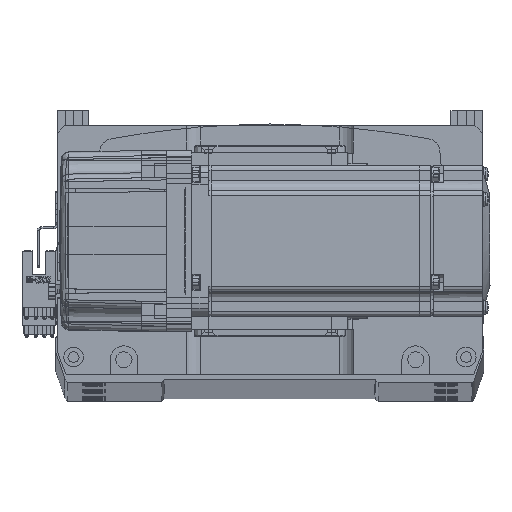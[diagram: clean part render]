
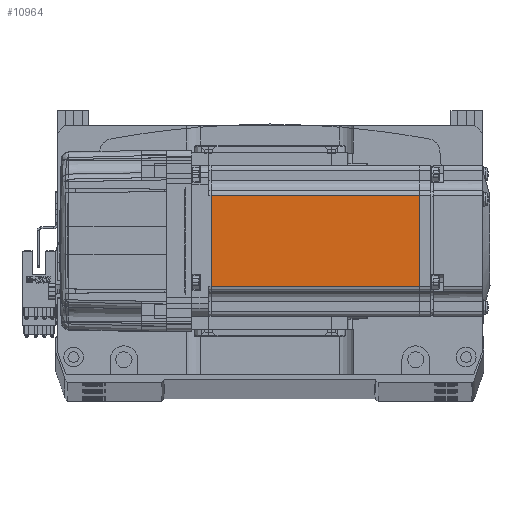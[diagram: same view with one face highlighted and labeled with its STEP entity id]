
A CAD part, top view. The second image highlights one B-rep face of the part: STEP entity #10964.
In plain terms, the highlighted planar face has unit normal (0, 0, 1) as drawn and (0, -1, 0) by its records, which use the part's own axes.
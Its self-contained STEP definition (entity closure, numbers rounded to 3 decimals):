
#1795 = ORIENTED_EDGE ( 'NONE', *, *, #2649, .T. ) ;
#2649 = EDGE_CURVE ( 'NONE', #59176, #3672, #30111, .T. ) ;
#3672 = VERTEX_POINT ( 'NONE', #27690 ) ;
#4783 = CARTESIAN_POINT ( 'NONE',  ( -7.75, -30., 18. ) ) ;
#4888 = DIRECTION ( 'NONE',  ( 1., 0., 0. ) ) ;
#9527 = LINE ( 'NONE', #29576, #31607 ) ;
#10964 = ADVANCED_FACE ( 'NONE', ( #70979 ), #28569, .T. ) ;
#11043 = VECTOR ( 'NONE', #50811, 1000. ) ;
#11052 = DIRECTION ( 'NONE',  ( 0., -1., 0. ) ) ;
#16121 = EDGE_CURVE ( 'NONE', #67766, #59176, #41482, .T. ) ;
#18571 = CARTESIAN_POINT ( 'NONE',  ( -90.45, -30., 18. ) ) ;
#21717 = CARTESIAN_POINT ( 'NONE',  ( -90.45, -30., -25. ) ) ;
#26191 = CARTESIAN_POINT ( 'NONE',  ( -6.5, -30., 18. ) ) ;
#27330 = VECTOR ( 'NONE', #4888, 1000. ) ;
#27690 = CARTESIAN_POINT ( 'NONE',  ( -7.75, -30., -18. ) ) ;
#28569 = PLANE ( 'NONE',  #42481 ) ;
#29576 = CARTESIAN_POINT ( 'NONE',  ( -7.75, -30., -25. ) ) ;
#30111 = LINE ( 'NONE', #34263, #27330 ) ;
#31607 = VECTOR ( 'NONE', #48607, 1000. ) ;
#32276 = EDGE_LOOP ( 'NONE', ( #58590, #34985, #43120, #1795 ) ) ;
#34263 = CARTESIAN_POINT ( 'NONE',  ( -6.5, -30., -18. ) ) ;
#34985 = ORIENTED_EDGE ( 'NONE', *, *, #74778, .T. ) ;
#40431 = CARTESIAN_POINT ( 'NONE',  ( -90.45, -30., -18. ) ) ;
#41482 = LINE ( 'NONE', #21717, #11043 ) ;
#42481 = AXIS2_PLACEMENT_3D ( 'NONE', #46322, #11052, #51744 ) ;
#43120 = ORIENTED_EDGE ( 'NONE', *, *, #16121, .T. ) ;
#46322 = CARTESIAN_POINT ( 'NONE',  ( -6.5, -30., -25. ) ) ;
#46720 = VECTOR ( 'NONE', #73344, 1000. ) ;
#47838 = VERTEX_POINT ( 'NONE', #4783 ) ;
#48607 = DIRECTION ( 'NONE',  ( 0., 0., 1. ) ) ;
#50811 = DIRECTION ( 'NONE',  ( 0., 0., -1. ) ) ;
#51744 = DIRECTION ( 'NONE',  ( 0., 0., -1. ) ) ;
#53713 = EDGE_CURVE ( 'NONE', #3672, #47838, #9527, .T. ) ;
#58590 = ORIENTED_EDGE ( 'NONE', *, *, #53713, .T. ) ;
#59176 = VERTEX_POINT ( 'NONE', #40431 ) ;
#66057 = LINE ( 'NONE', #26191, #46720 ) ;
#67766 = VERTEX_POINT ( 'NONE', #18571 ) ;
#70979 = FACE_OUTER_BOUND ( 'NONE', #32276, .T. ) ;
#73344 = DIRECTION ( 'NONE',  ( -1., 0., 0. ) ) ;
#74778 = EDGE_CURVE ( 'NONE', #47838, #67766, #66057, .T. ) ;
